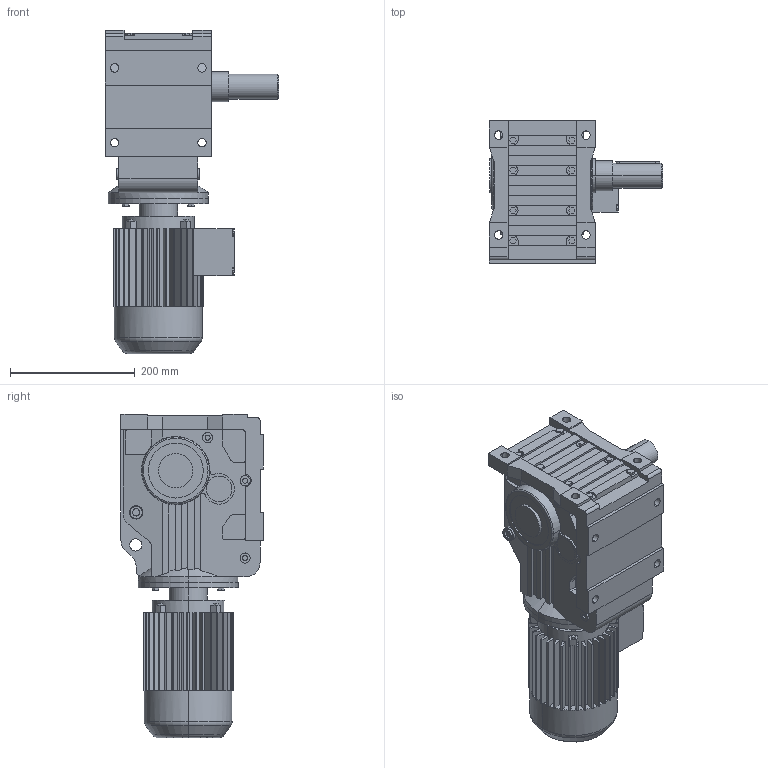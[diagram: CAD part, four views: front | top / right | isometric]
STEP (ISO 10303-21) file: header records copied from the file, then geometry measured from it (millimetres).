
FILE_DESCRIPTION(('Open CASCADE Model'),'2;1');
FILE_NAME('Open CASCADE Shape Model','2021-06-09T16:26:13',('Author'),( 'Open CASCADE'),'Open CASCADE STEP processor 6.3','Open CASCADE 6.3' ,'Unknown');
FILE_SCHEMA(('AUTOMOTIVE_DESIGN_CC2 { 1 2 10303 214 -1 1 5 4 }'));
Length unit declared in the file: millimetre
Products named in the file (4): 1_K67DT80-A; K37‵157_67.step; 萇儂_160-DT80-249-313-145-122.step; す瑩妗陑粣K_67.step
Assembly tree (3 placements, depth 2):
  1_K67DT80-A
    K37‵157_67.step
    萇儂_160-DT80-249-313-145-122.step
    す瑩妗陑粣K_67.step
Bounding box: 278 x 228 x 518 mm (x, y, z)
Volume: 10983488.4 mm3; surface area: 678582.7 mm2
Topology: 3 solids, 3 shells, 839 faces, 2210 edges, 1434 vertices
Faces by surface type: plane 584, cylinder 231, cone 16, torus 8
Entity records: 57692 total; most frequent: CARTESIAN_POINT 15683, DIRECTION 7244, ORIENTED_EDGE 4416, PCURVE 4416, DEFINITIONAL_REPRESENTATION 4416, LINE 3943, VECTOR 3943, EDGE_CURVE 2208
